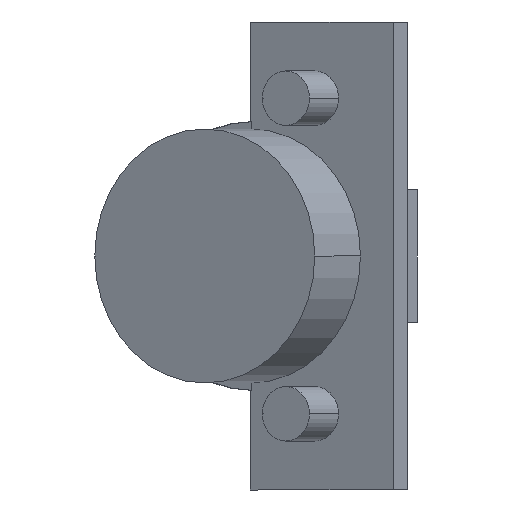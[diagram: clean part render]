
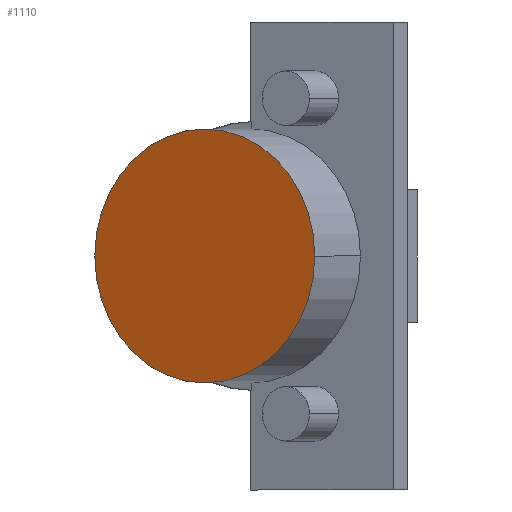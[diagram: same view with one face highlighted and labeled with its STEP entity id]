
A CAD part, front view. The second image highlights one B-rep face of the part: STEP entity #1110.
In plain terms, the highlighted planar face has unit normal (-0.5, -0.866, 0).
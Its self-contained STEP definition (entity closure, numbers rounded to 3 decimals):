
#42 = VERTEX_POINT ( 'NONE', #139 ) ;
#51 = VERTEX_POINT ( 'NONE', #148 ) ;
#139 = CARTESIAN_POINT ( 'NONE',  ( 29.205, -19.662, 0. ) ) ;
#148 = CARTESIAN_POINT ( 'NONE',  ( -1.105, -2.162, 0. ) ) ;
#390 = CARTESIAN_POINT ( 'NONE',  ( 14.05, -10.912, 0. ) ) ;
#391 = PLANE ( 'NONE',  #1330 ) ;
#393 = DIRECTION ( 'NONE',  ( -0.5, -0.866, 0. ) ) ;
#394 = DIRECTION ( 'NONE',  ( 0.866, -0.5, 0. ) ) ;
#644 = CARTESIAN_POINT ( 'NONE',  ( 14.05, -10.912, 0. ) ) ;
#645 = DIRECTION ( 'NONE',  ( -0.5, -0.866, 0. ) ) ;
#646 = DIRECTION ( 'NONE',  ( 0.866, -0.5, 0. ) ) ;
#706 = CARTESIAN_POINT ( 'NONE',  ( 14.05, -10.912, 0. ) ) ;
#708 = DIRECTION ( 'NONE',  ( -0.5, -0.866, 0. ) ) ;
#709 = DIRECTION ( 'NONE',  ( 0.866, -0.5, 0. ) ) ;
#963 = CIRCLE ( 'NONE', #1355, 17.5 ) ;
#1011 = CIRCLE ( 'NONE', #1364, 17.5 ) ;
#1110 = ADVANCED_FACE ( 'NONE', ( #1412 ), #391, .T. ) ;
#1222 = EDGE_CURVE ( 'NONE', #51, #42, #963, .T. ) ;
#1249 = EDGE_CURVE ( 'NONE', #42, #51, #1011, .T. ) ;
#1330 = AXIS2_PLACEMENT_3D ( 'NONE', #390, #393, #394 ) ;
#1355 = AXIS2_PLACEMENT_3D ( 'NONE', #644, #645, #646 ) ;
#1364 = AXIS2_PLACEMENT_3D ( 'NONE', #706, #708, #709 ) ;
#1412 = FACE_OUTER_BOUND ( 'NONE', #1737, .T. ) ;
#1530 = ORIENTED_EDGE ( 'NONE', *, *, #1222, .T. ) ;
#1531 = ORIENTED_EDGE ( 'NONE', *, *, #1249, .T. ) ;
#1737 = EDGE_LOOP ( 'NONE', ( #1530, #1531 ) ) ;
